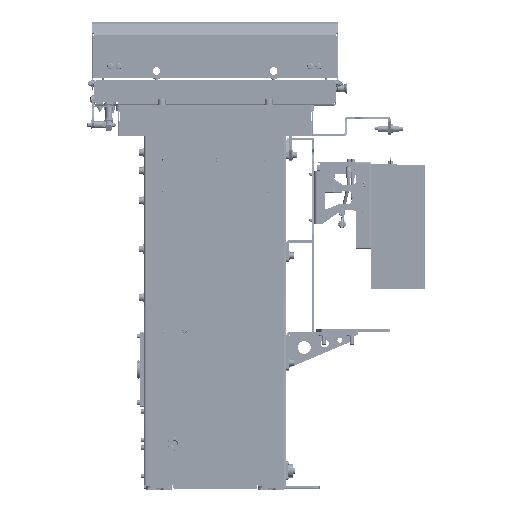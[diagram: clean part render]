
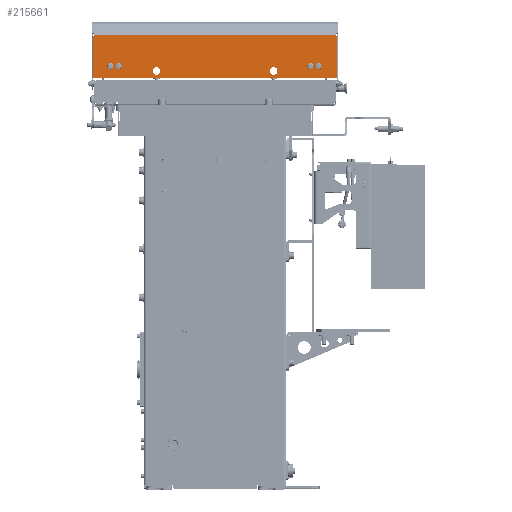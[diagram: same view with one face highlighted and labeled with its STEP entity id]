
A CAD part, top view. The second image highlights one B-rep face of the part: STEP entity #215661.
In plain terms, the highlighted planar face has unit normal (0, 0, 1).
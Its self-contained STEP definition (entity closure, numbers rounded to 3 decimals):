
#12333=CARTESIAN_POINT('',(-239.,539.572,-178.5));
#12334=DIRECTION('',(0.,0.,-1.));
#12335=DIRECTION('',(1.,0.,0.));
#12336=AXIS2_PLACEMENT_3D('',#12333,#12334,#12335);
#12451=DIRECTION('',(-1.,0.,0.));
#12452=VECTOR('',#12451,478.);
#12453=CARTESIAN_POINT('',(239.,457.,-178.5));
#12454=LINE('',#12453,#12452);
#12455=DIRECTION('',(0.,-1.,0.));
#12456=VECTOR('',#12455,1.185);
#12457=CARTESIAN_POINT('',(-238.,540.757,-178.5));
#12458=LINE('',#12457,#12456);
#12459=DIRECTION('',(0.,-1.,0.));
#12460=VECTOR('',#12459,1.185);
#12461=CARTESIAN_POINT('',(238.,540.757,-178.5));
#12462=LINE('',#12461,#12460);
#12463=CARTESIAN_POINT('',(115.,470.,-178.5));
#12464=DIRECTION('',(0.,0.,1.));
#12465=DIRECTION('',(0.,-1.,0.));
#12466=AXIS2_PLACEMENT_3D('',#12463,#12464,#12465);
#12468=CARTESIAN_POINT('',(115.,470.,-178.5));
#12469=DIRECTION('',(0.,0.,1.));
#12470=DIRECTION('',(0.,1.,0.));
#12471=AXIS2_PLACEMENT_3D('',#12468,#12469,#12470);
#12473=CARTESIAN_POINT('',(-115.,470.,-178.5));
#12474=DIRECTION('',(0.,0.,1.));
#12475=DIRECTION('',(0.,-1.,0.));
#12476=AXIS2_PLACEMENT_3D('',#12473,#12474,#12475);
#12478=CARTESIAN_POINT('',(-115.,470.,-178.5));
#12479=DIRECTION('',(0.,0.,1.));
#12480=DIRECTION('',(0.,1.,0.));
#12481=AXIS2_PLACEMENT_3D('',#12478,#12479,#12480);
#12483=CARTESIAN_POINT('',(187.,479.5,-178.5));
#12484=DIRECTION('',(0.,0.,1.));
#12485=DIRECTION('',(1.,0.,0.));
#12486=AXIS2_PLACEMENT_3D('',#12483,#12484,#12485);
#12488=CARTESIAN_POINT('',(187.,479.5,-178.5));
#12489=DIRECTION('',(0.,0.,1.));
#12490=DIRECTION('',(-1.,0.,0.));
#12491=AXIS2_PLACEMENT_3D('',#12488,#12489,#12490);
#12493=CARTESIAN_POINT('',(203.,479.5,-178.5));
#12494=DIRECTION('',(0.,0.,1.));
#12495=DIRECTION('',(1.,0.,0.));
#12496=AXIS2_PLACEMENT_3D('',#12493,#12494,#12495);
#12498=CARTESIAN_POINT('',(203.,479.5,-178.5));
#12499=DIRECTION('',(0.,0.,1.));
#12500=DIRECTION('',(-1.,0.,0.));
#12501=AXIS2_PLACEMENT_3D('',#12498,#12499,#12500);
#12503=CARTESIAN_POINT('',(-189.5,479.5,-178.5));
#12504=DIRECTION('',(0.,0.,1.));
#12505=DIRECTION('',(1.,0.,0.));
#12506=AXIS2_PLACEMENT_3D('',#12503,#12504,#12505);
#12508=CARTESIAN_POINT('',(-189.5,479.5,-178.5));
#12509=DIRECTION('',(0.,0.,1.));
#12510=DIRECTION('',(-1.,0.,0.));
#12511=AXIS2_PLACEMENT_3D('',#12508,#12509,#12510);
#12513=CARTESIAN_POINT('',(-205.5,479.5,-178.5));
#12514=DIRECTION('',(0.,0.,1.));
#12515=DIRECTION('',(1.,0.,0.));
#12516=AXIS2_PLACEMENT_3D('',#12513,#12514,#12515);
#12518=CARTESIAN_POINT('',(-205.5,479.5,-178.5));
#12519=DIRECTION('',(0.,0.,1.));
#12520=DIRECTION('',(-1.,0.,0.));
#12521=AXIS2_PLACEMENT_3D('',#12518,#12519,#12520);
#12537=DIRECTION('',(0.,1.,0.));
#12538=VECTOR('',#12537,81.572);
#12539=CARTESIAN_POINT('',(-239.,457.,-178.5));
#12540=LINE('',#12539,#12538);
#12572=DIRECTION('',(1.,0.,0.));
#12573=VECTOR('',#12572,476.);
#12574=CARTESIAN_POINT('',(-238.,540.757,-178.5));
#12575=LINE('',#12574,#12573);
#12851=CARTESIAN_POINT('',(239.,539.572,-178.5));
#12852=DIRECTION('',(0.,0.,-1.));
#12853=DIRECTION('',(0.,-1.,0.));
#12854=AXIS2_PLACEMENT_3D('',#12851,#12852,#12853);
#12896=DIRECTION('',(0.,-1.,0.));
#12897=VECTOR('',#12896,81.572);
#12898=CARTESIAN_POINT('',(239.,538.572,-178.5));
#12899=LINE('',#12898,#12897);
#185073=CARTESIAN_POINT('',(115.,462.5,-178.5));
#185074=CARTESIAN_POINT('',(115.,477.5,-178.5));
#185075=VERTEX_POINT('',#185073);
#185076=VERTEX_POINT('',#185074);
#185077=CARTESIAN_POINT('',(-115.,462.5,-178.5));
#185078=CARTESIAN_POINT('',(-115.,477.5,-178.5));
#185079=VERTEX_POINT('',#185077);
#185080=VERTEX_POINT('',#185078);
#185185=CARTESIAN_POINT('',(-238.,539.572,-178.5));
#185187=VERTEX_POINT('',#185185);
#185205=CARTESIAN_POINT('',(238.,539.572,-178.5));
#185207=VERTEX_POINT('',#185205);
#185209=CARTESIAN_POINT('',(238.,540.757,-178.5));
#185210=VERTEX_POINT('',#185209);
#185217=CARTESIAN_POINT('',(-238.,540.757,-178.5));
#185218=VERTEX_POINT('',#185217);
#185225=CARTESIAN_POINT('',(-239.,538.572,-178.5));
#185226=VERTEX_POINT('',#185225);
#185229=CARTESIAN_POINT('',(239.,538.572,-178.5));
#185230=VERTEX_POINT('',#185229);
#185273=CARTESIAN_POINT('',(239.,457.,-178.5));
#185274=CARTESIAN_POINT('',(-239.,457.,-178.5));
#185275=VERTEX_POINT('',#185273);
#185276=VERTEX_POINT('',#185274);
#185839=CARTESIAN_POINT('',(192.5,479.5,-178.5));
#185840=CARTESIAN_POINT('',(181.5,479.5,-178.5));
#185841=VERTEX_POINT('',#185839);
#185842=VERTEX_POINT('',#185840);
#186031=CARTESIAN_POINT('',(208.5,479.5,-178.5));
#186032=CARTESIAN_POINT('',(197.5,479.5,-178.5));
#186033=VERTEX_POINT('',#186031);
#186034=VERTEX_POINT('',#186032);
#186223=CARTESIAN_POINT('',(-184.,479.5,-178.5));
#186224=CARTESIAN_POINT('',(-195.,479.5,-178.5));
#186225=VERTEX_POINT('',#186223);
#186226=VERTEX_POINT('',#186224);
#186415=CARTESIAN_POINT('',(-200.,479.5,-178.5));
#186416=CARTESIAN_POINT('',(-211.,479.5,-178.5));
#186417=VERTEX_POINT('',#186415);
#186418=VERTEX_POINT('',#186416);
#215605=CARTESIAN_POINT('',(0.,499.,-178.5));
#215606=DIRECTION('',(0.,0.,1.));
#215607=DIRECTION('',(-1.,0.,0.));
#215608=AXIS2_PLACEMENT_3D('',#215605,#215606,#215607);
#215609=PLANE('',#215608);
#215610=ORIENTED_EDGE('',*,*,#215588,.T.);
#215612=ORIENTED_EDGE('',*,*,#215611,.T.);
#215613=ORIENTED_EDGE('',*,*,#215469,.F.);
#215614=ORIENTED_EDGE('',*,*,#215494,.F.);
#215616=ORIENTED_EDGE('',*,*,#215615,.T.);
#215618=ORIENTED_EDGE('',*,*,#215617,.T.);
#215620=ORIENTED_EDGE('',*,*,#215619,.F.);
#215622=ORIENTED_EDGE('',*,*,#215621,.T.);
#215623=EDGE_LOOP('',(#215610,#215612,#215613,#215614,#215616,#215618,#215620,
#215622));
#215624=FACE_OUTER_BOUND('',#215623,.F.);
#215626=ORIENTED_EDGE('',*,*,#215625,.T.);
#215628=ORIENTED_EDGE('',*,*,#215627,.T.);
#215629=EDGE_LOOP('',(#215626,#215628));
#215630=FACE_BOUND('',#215629,.F.);
#215632=ORIENTED_EDGE('',*,*,#215631,.T.);
#215634=ORIENTED_EDGE('',*,*,#215633,.T.);
#215635=EDGE_LOOP('',(#215632,#215634));
#215636=FACE_BOUND('',#215635,.F.);
#215638=ORIENTED_EDGE('',*,*,#215637,.T.);
#215640=ORIENTED_EDGE('',*,*,#215639,.T.);
#215641=EDGE_LOOP('',(#215638,#215640));
#215642=FACE_BOUND('',#215641,.F.);
#215644=ORIENTED_EDGE('',*,*,#215643,.T.);
#215646=ORIENTED_EDGE('',*,*,#215645,.T.);
#215647=EDGE_LOOP('',(#215644,#215646));
#215648=FACE_BOUND('',#215647,.F.);
#215650=ORIENTED_EDGE('',*,*,#215649,.T.);
#215652=ORIENTED_EDGE('',*,*,#215651,.T.);
#215653=EDGE_LOOP('',(#215650,#215652));
#215654=FACE_BOUND('',#215653,.F.);
#215656=ORIENTED_EDGE('',*,*,#215655,.T.);
#215658=ORIENTED_EDGE('',*,*,#215657,.T.);
#215659=EDGE_LOOP('',(#215656,#215658));
#215660=FACE_BOUND('',#215659,.F.);
#12337=CIRCLE('',#12336,1.);
#12467=CIRCLE('',#12466,7.5);
#12472=CIRCLE('',#12471,7.5);
#12477=CIRCLE('',#12476,7.5);
#12482=CIRCLE('',#12481,7.5);
#12487=CIRCLE('',#12486,5.5);
#12492=CIRCLE('',#12491,5.5);
#12497=CIRCLE('',#12496,5.5);
#12502=CIRCLE('',#12501,5.5);
#12507=CIRCLE('',#12506,5.5);
#12512=CIRCLE('',#12511,5.5);
#12517=CIRCLE('',#12516,5.5);
#12522=CIRCLE('',#12521,5.5);
#12855=CIRCLE('',#12854,1.);
#215469=EDGE_CURVE('',#185187,#185226,#12337,.T.);
#215494=EDGE_CURVE('',#185218,#185187,#12458,.T.);
#215588=EDGE_CURVE('',#185275,#185276,#12454,.T.);
#215611=EDGE_CURVE('',#185276,#185226,#12540,.T.);
#215615=EDGE_CURVE('',#185218,#185210,#12575,.T.);
#215617=EDGE_CURVE('',#185210,#185207,#12462,.T.);
#215619=EDGE_CURVE('',#185230,#185207,#12855,.T.);
#215621=EDGE_CURVE('',#185230,#185275,#12899,.T.);
#215625=EDGE_CURVE('',#185075,#185076,#12467,.T.);
#215627=EDGE_CURVE('',#185076,#185075,#12472,.T.);
#215631=EDGE_CURVE('',#185079,#185080,#12477,.T.);
#215633=EDGE_CURVE('',#185080,#185079,#12482,.T.);
#215637=EDGE_CURVE('',#185841,#185842,#12487,.T.);
#215639=EDGE_CURVE('',#185842,#185841,#12492,.T.);
#215643=EDGE_CURVE('',#186033,#186034,#12497,.T.);
#215645=EDGE_CURVE('',#186034,#186033,#12502,.T.);
#215649=EDGE_CURVE('',#186225,#186226,#12507,.T.);
#215651=EDGE_CURVE('',#186226,#186225,#12512,.T.);
#215655=EDGE_CURVE('',#186417,#186418,#12517,.T.);
#215657=EDGE_CURVE('',#186418,#186417,#12522,.T.);
#215661=ADVANCED_FACE('',(#215624,#215630,#215636,#215642,#215648,#215654,
#215660),#215609,.T.);
